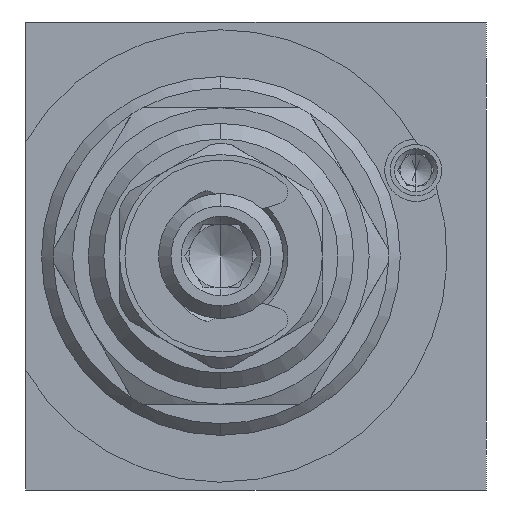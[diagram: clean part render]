
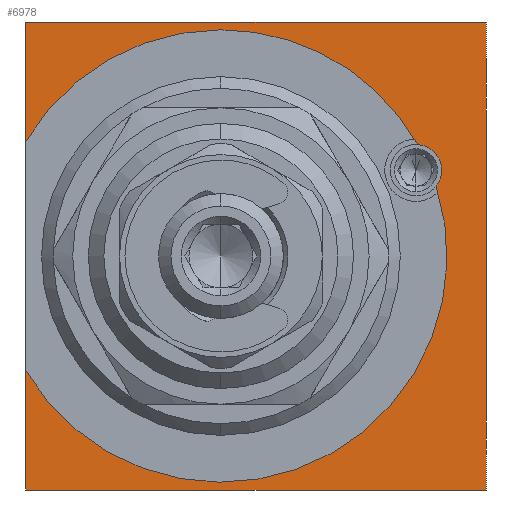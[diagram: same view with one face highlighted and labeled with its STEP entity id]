
A CAD part, left-side view. The second image highlights one B-rep face of the part: STEP entity #6978.
In plain terms, the highlighted planar face has unit normal (-1, 0, 0).
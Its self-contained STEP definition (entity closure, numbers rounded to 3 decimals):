
#120 = CARTESIAN_POINT ( 'NONE',  ( 0., 2.25, 0. ) ) ;
#245 = EDGE_CURVE ( 'NONE', #6787, #10500, #3076, .T. ) ;
#288 = EDGE_CURVE ( 'NONE', #12758, #6621, #1682, .T. ) ;
#559 = CIRCLE ( 'NONE', #6472, 14.5 ) ;
#1282 = DIRECTION ( 'NONE',  ( 0., 0., 1. ) ) ;
#1682 = CIRCLE ( 'NONE', #3011, 14.5 ) ;
#1958 = CARTESIAN_POINT ( 'NONE',  ( 0., 2.25, 0. ) ) ;
#2520 = CARTESIAN_POINT ( 'NONE',  ( 0., 14.75, -15. ) ) ;
#2550 = EDGE_CURVE ( 'NONE', #9603, #9009, #7120, .T. ) ;
#2558 = AXIS2_PLACEMENT_3D ( 'NONE', #2520, #10572, #3674 ) ;
#2605 = VECTOR ( 'NONE', #13672, 1000. ) ;
#2810 = EDGE_CURVE ( 'NONE', #8406, #5834, #12884, .T. ) ;
#2917 = EDGE_CURVE ( 'NONE', #13665, #9603, #7083, .T. ) ;
#2922 = AXIS2_PLACEMENT_3D ( 'NONE', #13392, #13471, #13540 ) ;
#3011 = AXIS2_PLACEMENT_3D ( 'NONE', #120, #8142, #1282 ) ;
#3072 = VECTOR ( 'NONE', #10202, 1000. ) ;
#3076 = LINE ( 'NONE', #9743, #3072 ) ;
#3094 = DIRECTION ( 'NONE',  ( 0., 0., 1. ) ) ;
#3424 = CARTESIAN_POINT ( 'NONE',  ( 0., 14.75, 15. ) ) ;
#3674 = DIRECTION ( 'NONE',  ( 0., 0., 1. ) ) ;
#4248 = LINE ( 'NONE', #5337, #7310 ) ;
#4279 = EDGE_CURVE ( 'NONE', #12758, #6787, #4248, .T. ) ;
#4332 = EDGE_CURVE ( 'NONE', #6621, #5834, #12011, .T. ) ;
#4348 = ORIENTED_EDGE ( 'NONE', *, *, #4332, .T. ) ;
#4723 = EDGE_CURVE ( 'NONE', #10500, #13665, #5669, .T. ) ;
#4787 = PLANE ( 'NONE',  #2558 ) ;
#5216 = CARTESIAN_POINT ( 'NONE',  ( 0., 14.75, -15. ) ) ;
#5266 = DIRECTION ( 'NONE',  ( 0., 0., 1. ) ) ;
#5337 = CARTESIAN_POINT ( 'NONE',  ( 0., 14.75, 15. ) ) ;
#5669 = LINE ( 'NONE', #11965, #2605 ) ;
#5718 = CARTESIAN_POINT ( 'NONE',  ( 0., -10.367, 7.146 ) ) ;
#5757 = DIRECTION ( 'NONE',  ( 0., 0., 1. ) ) ;
#5834 = VERTEX_POINT ( 'NONE', #5718 ) ;
#6472 = AXIS2_PLACEMENT_3D ( 'NONE', #1958, #9986, #3094 ) ;
#6621 = VERTEX_POINT ( 'NONE', #10063 ) ;
#6690 = ORIENTED_EDGE ( 'NONE', *, *, #245, .F. ) ;
#6787 = VERTEX_POINT ( 'NONE', #3424 ) ;
#6904 = CARTESIAN_POINT ( 'NONE',  ( 0., 14.75, 15. ) ) ;
#6915 = ORIENTED_EDGE ( 'NONE', *, *, #2810, .F. ) ;
#6978 = ADVANCED_FACE ( 'NONE', ( #6993 ), #4787, .T. ) ;
#6982 = ORIENTED_EDGE ( 'NONE', *, *, #288, .T. ) ;
#6993 = FACE_OUTER_BOUND ( 'NONE', #7785, .T. ) ;
#7083 = LINE ( 'NONE', #14609, #13237 ) ;
#7120 = LINE ( 'NONE', #6904, #13263 ) ;
#7310 = VECTOR ( 'NONE', #5266, 1000. ) ;
#7320 = AXIS2_PLACEMENT_3D ( 'NONE', #11536, #10349, #9187 ) ;
#7447 = CARTESIAN_POINT ( 'NONE',  ( 0., 14.75, -7.348 ) ) ;
#7785 = EDGE_LOOP ( 'NONE', ( #6915, #8454, #8737, #13908, #8787, #6690, #14718, #6982, #4348 ) ) ;
#8142 = DIRECTION ( 'NONE',  ( 1., 0., 0. ) ) ;
#8285 = CARTESIAN_POINT ( 'NONE',  ( 0., -11.542, 4.474 ) ) ;
#8406 = VERTEX_POINT ( 'NONE', #8285 ) ;
#8454 = ORIENTED_EDGE ( 'NONE', *, *, #10145, .T. ) ;
#8737 = ORIENTED_EDGE ( 'NONE', *, *, #2550, .F. ) ;
#8787 = ORIENTED_EDGE ( 'NONE', *, *, #4723, .F. ) ;
#9009 = VERTEX_POINT ( 'NONE', #7447 ) ;
#9187 = DIRECTION ( 'NONE',  ( 0., 0., 1. ) ) ;
#9348 = CARTESIAN_POINT ( 'NONE',  ( 0., 14.75, 7.348 ) ) ;
#9603 = VERTEX_POINT ( 'NONE', #5216 ) ;
#9743 = CARTESIAN_POINT ( 'NONE',  ( 0., -14.75, 15. ) ) ;
#9986 = DIRECTION ( 'NONE',  ( 1., 0., 0. ) ) ;
#10063 = CARTESIAN_POINT ( 'NONE',  ( 0., 2.25, 14.5 ) ) ;
#10145 = EDGE_CURVE ( 'NONE', #8406, #9009, #559, .T. ) ;
#10202 = DIRECTION ( 'NONE',  ( 0., -1., 0. ) ) ;
#10349 = DIRECTION ( 'NONE',  ( -1., 0., 0. ) ) ;
#10500 = VERTEX_POINT ( 'NONE', #14792 ) ;
#10572 = DIRECTION ( 'NONE',  ( -1., 0., 0. ) ) ;
#11536 = CARTESIAN_POINT ( 'NONE',  ( 0., -10.25, 5.5 ) ) ;
#11965 = CARTESIAN_POINT ( 'NONE',  ( 0., -14.75, 15. ) ) ;
#12011 = CIRCLE ( 'NONE', #2922, 14.5 ) ;
#12758 = VERTEX_POINT ( 'NONE', #9348 ) ;
#12884 = CIRCLE ( 'NONE', #7320, 1.65 ) ;
#13237 = VECTOR ( 'NONE', #13889, 1000. ) ;
#13263 = VECTOR ( 'NONE', #5757, 1000. ) ;
#13392 = CARTESIAN_POINT ( 'NONE',  ( 0., 2.25, 0. ) ) ;
#13471 = DIRECTION ( 'NONE',  ( 1., 0., 0. ) ) ;
#13540 = DIRECTION ( 'NONE',  ( 0., 0., 1. ) ) ;
#13665 = VERTEX_POINT ( 'NONE', #13844 ) ;
#13672 = DIRECTION ( 'NONE',  ( 0., 0., -1. ) ) ;
#13844 = CARTESIAN_POINT ( 'NONE',  ( 0., -14.75, -15. ) ) ;
#13889 = DIRECTION ( 'NONE',  ( 0., 1., 0. ) ) ;
#13908 = ORIENTED_EDGE ( 'NONE', *, *, #2917, .F. ) ;
#14609 = CARTESIAN_POINT ( 'NONE',  ( 0., -14.75, -15. ) ) ;
#14718 = ORIENTED_EDGE ( 'NONE', *, *, #4279, .F. ) ;
#14792 = CARTESIAN_POINT ( 'NONE',  ( 0., -14.75, 15. ) ) ;
